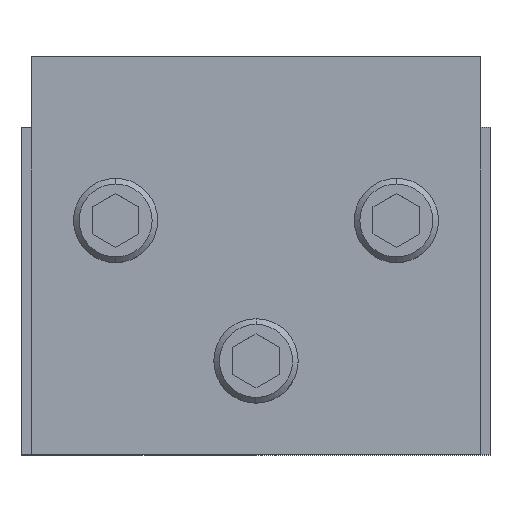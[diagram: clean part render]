
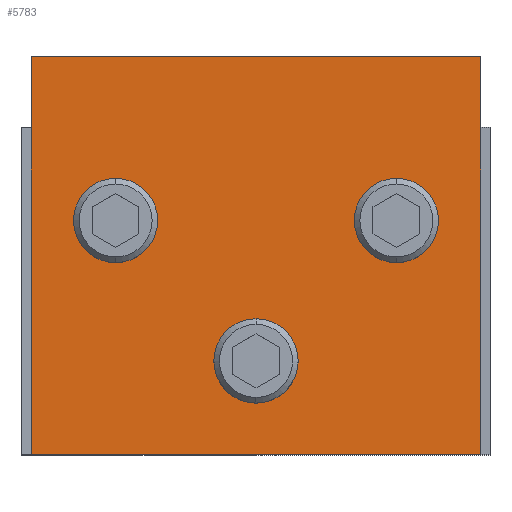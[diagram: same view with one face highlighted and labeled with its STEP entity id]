
A CAD part, top view. The second image highlights one B-rep face of the part: STEP entity #5783.
In plain terms, the highlighted planar face has unit normal (0, 0, 1).
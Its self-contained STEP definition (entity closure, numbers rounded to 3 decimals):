
#5558=VERTEX_POINT(' ',#5559);
#5559=CARTESIAN_POINT('',(48.,85.,80.));
#5560=VERTEX_POINT(' ',#5561);
#5561=CARTESIAN_POINT('',(-48.,85.,80.));
#5562=VERTEX_POINT(' ',#5563);
#5563=CARTESIAN_POINT('',(-48.,0.,80.));
#5564=VERTEX_POINT(' ',#5565);
#5565=CARTESIAN_POINT('',(48.,0.,80.));
#5566=VERTEX_POINT(' ',#5567);
#5567=CARTESIAN_POINT('',(0.,26.5,80.));
#5568=VERTEX_POINT(' ',#5569);
#5569=CARTESIAN_POINT('',(0.,13.5,80.));
#5570=VERTEX_POINT(' ',#5571);
#5571=CARTESIAN_POINT('',(-30.,56.5,80.));
#5572=VERTEX_POINT(' ',#5573);
#5573=CARTESIAN_POINT('',(-30.,43.5,80.));
#5574=VERTEX_POINT(' ',#5575);
#5575=CARTESIAN_POINT('',(30.,56.5,80.));
#5576=VERTEX_POINT(' ',#5577);
#5577=CARTESIAN_POINT('',(30.,43.5,80.));
#5598=LINE('',#5599,#5600);
#5599=CARTESIAN_POINT('',(48.,85.,80.));
#5600=VECTOR('',#5601,1.);
#5601=DIRECTION('',(-1.,0.,0.));
#5602=EDGE_CURVE(' ',#5558,#5560,#5598,.T.);
#5603=LINE('',#5604,#5605);
#5604=CARTESIAN_POINT('',(-48.,85.,80.));
#5605=VECTOR('',#5606,1.);
#5606=DIRECTION('',(0.,-1.,0.));
#5607=EDGE_CURVE(' ',#5560,#5562,#5603,.T.);
#5608=LINE('',#5609,#5610);
#5609=CARTESIAN_POINT('',(-48.,0.,80.));
#5610=VECTOR('',#5611,1.);
#5611=DIRECTION('',(1.,0.,0.));
#5612=EDGE_CURVE(' ',#5562,#5564,#5608,.T.);
#5613=LINE('',#5614,#5615);
#5614=CARTESIAN_POINT('',(48.,0.,80.));
#5615=VECTOR('',#5616,1.);
#5616=DIRECTION('',(0.,1.,0.));
#5617=EDGE_CURVE(' ',#5564,#5558,#5613,.T.);
#5618=CIRCLE('',#5619,6.5);
#5619=AXIS2_PLACEMENT_3D('',#5620,#5621,#5622);
#5620=CARTESIAN_POINT('',(0.,20.,80.));
#5621=DIRECTION('',(0.,0.,-1.));
#5622=DIRECTION('',(-1.,0.,0.));
#5623=EDGE_CURVE(' ',#5566,#5568,#5618,.T.);
#5624=CIRCLE('',#5625,6.5);
#5625=AXIS2_PLACEMENT_3D('',#5626,#5627,#5628);
#5626=CARTESIAN_POINT('',(0.,20.,80.));
#5627=DIRECTION('',(0.,0.,-1.));
#5628=DIRECTION('',(1.,0.,0.));
#5629=EDGE_CURVE(' ',#5568,#5566,#5624,.T.);
#5630=CIRCLE('',#5631,6.5);
#5631=AXIS2_PLACEMENT_3D('',#5632,#5633,#5634);
#5632=CARTESIAN_POINT('',(-30.,50.,80.));
#5633=DIRECTION('',(0.,0.,-1.));
#5634=DIRECTION('',(-1.,0.,0.));
#5635=EDGE_CURVE(' ',#5570,#5572,#5630,.T.);
#5636=CIRCLE('',#5637,6.5);
#5637=AXIS2_PLACEMENT_3D('',#5638,#5639,#5640);
#5638=CARTESIAN_POINT('',(-30.,50.,80.));
#5639=DIRECTION('',(0.,0.,-1.));
#5640=DIRECTION('',(1.,0.,0.));
#5641=EDGE_CURVE(' ',#5572,#5570,#5636,.T.);
#5642=CIRCLE('',#5643,6.5);
#5643=AXIS2_PLACEMENT_3D('',#5644,#5645,#5646);
#5644=CARTESIAN_POINT('',(30.,50.,80.));
#5645=DIRECTION('',(0.,0.,-1.));
#5646=DIRECTION('',(-1.,0.,0.));
#5647=EDGE_CURVE(' ',#5574,#5576,#5642,.T.);
#5648=CIRCLE('',#5649,6.5);
#5649=AXIS2_PLACEMENT_3D('',#5650,#5651,#5652);
#5650=CARTESIAN_POINT('',(30.,50.,80.));
#5651=DIRECTION('',(0.,0.,-1.));
#5652=DIRECTION('',(1.,0.,0.));
#5653=EDGE_CURVE(' ',#5576,#5574,#5648,.T.);
#5760=ORIENTED_EDGE('',*,*,#5602,.T.);
#5761=ORIENTED_EDGE('',*,*,#5607,.T.);
#5762=ORIENTED_EDGE('',*,*,#5612,.T.);
#5763=ORIENTED_EDGE('',*,*,#5617,.T.);
#5764=EDGE_LOOP('',(#5760,#5761,#5762,#5763));
#5765=FACE_OUTER_BOUND('',#5764,.T.);
#5766=ORIENTED_EDGE('',*,*,#5623,.T.);
#5767=ORIENTED_EDGE('',*,*,#5629,.T.);
#5768=EDGE_LOOP('',(#5766,#5767));
#5769=FACE_BOUND('',#5768,.T.);
#5770=ORIENTED_EDGE('',*,*,#5635,.T.);
#5771=ORIENTED_EDGE('',*,*,#5641,.T.);
#5772=EDGE_LOOP('',(#5770,#5771));
#5773=FACE_BOUND('',#5772,.T.);
#5774=ORIENTED_EDGE('',*,*,#5647,.T.);
#5775=ORIENTED_EDGE('',*,*,#5653,.T.);
#5776=EDGE_LOOP('',(#5774,#5775));
#5777=FACE_BOUND('',#5776,.T.);
#5778=PLANE('',#5779);
#5779=AXIS2_PLACEMENT_3D('',#5780,#5781,#5782);
#5780=CARTESIAN_POINT('',(48.,85.,80.));
#5781=DIRECTION('',(0.,0.,1.));
#5782=DIRECTION('',(1.,0.,0.));
#5783=ADVANCED_FACE('',(#5765,#5769,#5773,#5777),#5778,.T.);
